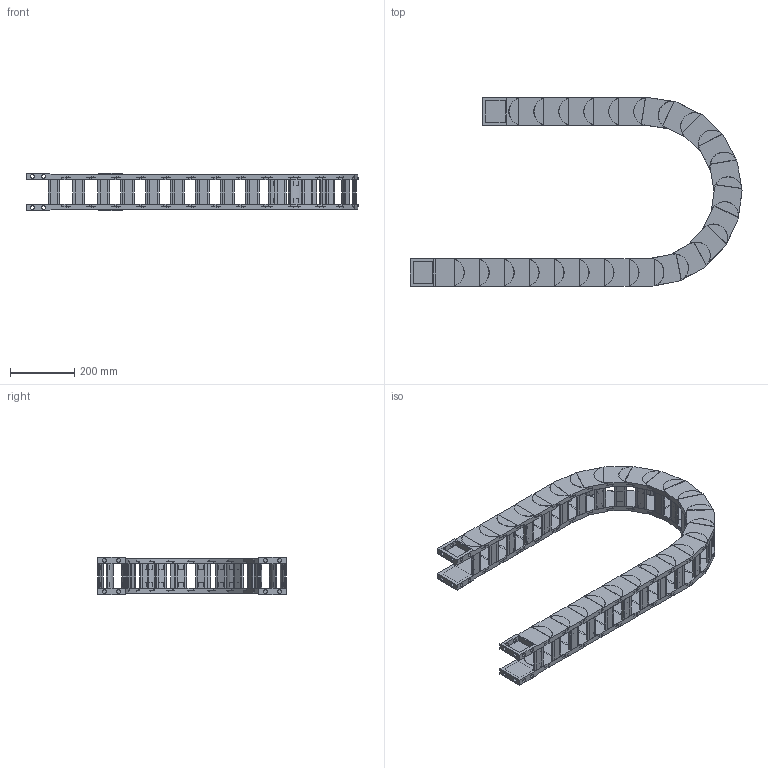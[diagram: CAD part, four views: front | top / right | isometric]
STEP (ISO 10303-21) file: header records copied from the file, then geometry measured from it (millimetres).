
FILE_DESCRIPTION((''),'2;1');
FILE_NAME('HD65-R250-ZPT_ASM','2022-06-18T10:50:44',('admin'),(''),'CREO PARAMETRIC BY PTC INC, 2021164','CREO PARAMETRIC BY PTC INC, 2021164','');
FILE_SCHEMA(('CONFIG_CONTROL_DESIGN','GEOMETRIC_VALIDATION_PROPERTIES_MIM'));
Length unit declared in the file: millimetre
Products named in the file (6): HD65; 65-50HDQSYP; HD65_ASM; H65-T1; H65-T2; HD65-R250-ZPT_ASM
Assembly tree (29 placements, depth 3):
  HD65-R250-ZPT_ASM
    HD65_ASM  x23
      HD65
      65-50HDQSYP
    H65-T1
    H65-T2
    65-50HDQSYP  x2
Bounding box: 1030.73 x 585.89 x 115.1 mm (x, y, z)
Volume: 6695465.9 mm3; surface area: 2014304 mm2
Topology: 100 solids, 100 shells, 1844 faces, 4858 edges, 3318 vertices
Faces by surface type: plane 1416, cylinder 428
Entity records: 8932 total; most frequent: CARTESIAN_POINT 1334, DIRECTION 1302, ORIENTED_EDGE 1212, EDGE_CURVE 606, AXIS2_PLACEMENT_3D 439, VECTOR 424, LINE 424, VERTEX_POINT 410
